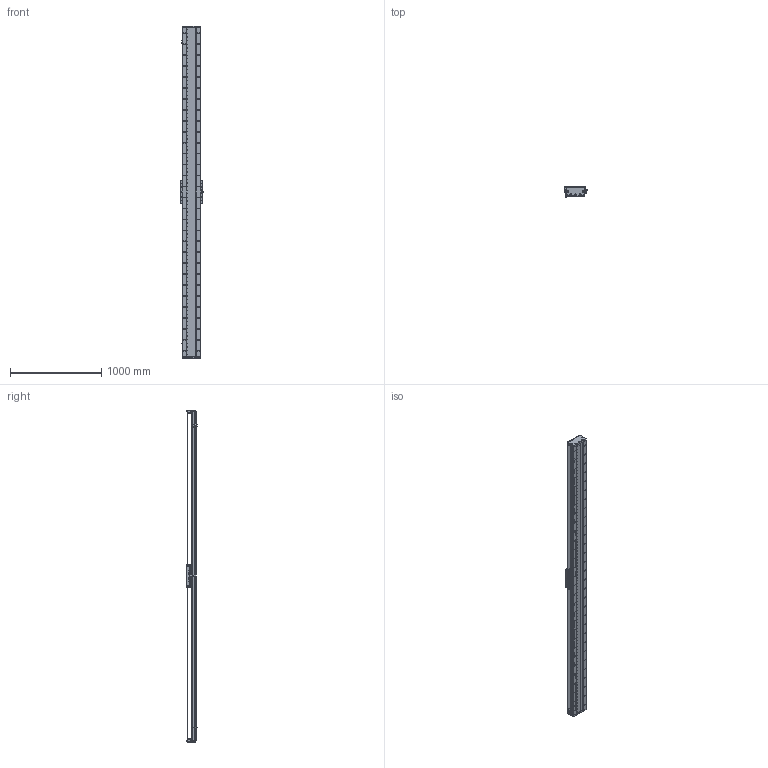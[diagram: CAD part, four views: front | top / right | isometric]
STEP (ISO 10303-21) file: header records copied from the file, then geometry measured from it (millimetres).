
FILE_DESCRIPTION (( 'STEP AP203' ), '1' );
FILE_NAME ('DA-C195-C3-T3300-C010-0.2 眻盄萇儂.STEP', '2025-08-15T01:26:47', ( '' ), ( '' ), 'SwSTEP 2.0', 'SolidWorks 2019', '' );
FILE_SCHEMA (( 'CONFIG_CONTROL_DESIGN' ));
Length unit declared in the file: millimetre
Products named in the file (15): DA195詩湍郪璃; LMT黍杅芛; DA95-HXJ-00 遣喳砎蝶; DA195詩湍嶺輸; PM-T45ㄗ侂狟ㄘ; MS200 棠掑喜S315-T240; DA195詩湍裔啣; 葩璃 DA95-GT-T-00; DA195詩湍菜輸; IU-CU195-L 菁釱絳寢; DA-C195-GD-DB-H-00 傷啣; DA-C195-C3-T3300-C010-0.2 眻盄萇儂; IU-CU195-L-00 菁釱(L3600); CU195-C3賑輸-俋楷; DA165-GYP-00 光电感应片(默认)
Assembly tree (29 placements, depth 3):
  DA-C195-C3-T3300-C010-0.2 眻盄萇儂
    DA195詩湍郪璃
      DA195詩湍菜輸  x2
      DA195詩湍裔啣
      DA195詩湍嶺輸  x2
      DA95-HXJ-00 遣喳砎蝶  x8
      DA-C195-GD-DB-H-00 傷啣  x2
    IU-CU195-L 菁釱絳寢
      IU-CU195-L-00 菁釱(L3600)
      葩璃 DA95-GT-T-00  x4
    LMT黍杅芛
    MS200 棠掑喜S315-T240
    PM-T45ㄗ侂狟ㄘ  x3
    DA165-GYP-00 光电感应片(默认)
    CU195-C3賑輸-俋楷
Bounding box: 248 x 115.45 x 3640 mm (x, y, z)
Volume: 20565635.8 mm3; surface area: 6113991.9 mm2
Topology: 86 solids, 118 shells, 4744 faces, 13767 edges, 8737 vertices
Faces by surface type: cylinder 2762, plane 1380, cone 514, torus 52, sphere 36
Entity records: 160789 total; most frequent: CARTESIAN_POINT 46156, ORIENTED_EDGE 24450, DIRECTION 22782, EDGE_CURVE 12225, AXIS2_PLACEMENT_3D 8581, VERTEX_POINT 7939, VECTOR 5620, LINE 5620
